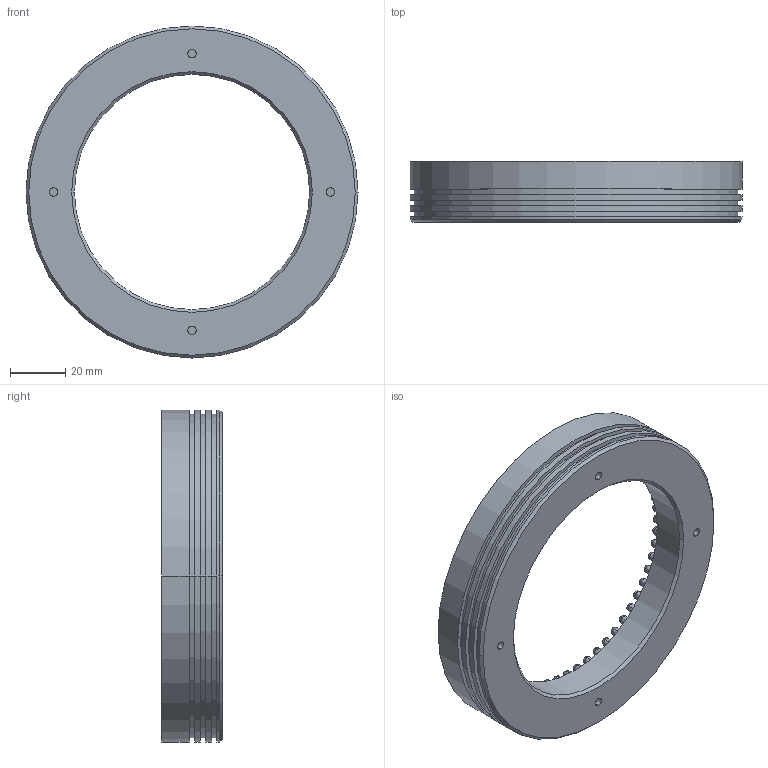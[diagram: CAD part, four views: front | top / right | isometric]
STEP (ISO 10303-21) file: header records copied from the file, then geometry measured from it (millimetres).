
FILE_DESCRIPTION((''),'2;1');
FILE_NAME('70-0W_ASM','2020-03-28T',('ASUS'),(''),'PRO/ENGINEER BY PARAMETRIC TECHNOLOGY CORPORATION, 2008380','PRO/ENGINEER BY PARAMETRIC TECHNOLOGY CORPORATION, 2008380','');
FILE_SCHEMA(('CONFIG_CONTROL_DESIGN'));
Length unit declared in the file: millimetre
Products named in the file (3): 70-0; 4_; 70-0W_ASM
Assembly tree (177 placements, depth 2):
  70-0W_ASM
    70-0
    4_  x176
Bounding box: 120 x 22 x 120 mm (x, y, z)
Volume: 68988.2 mm3; surface area: 50678.5 mm2
Topology: 177 solids, 178 shells, 1460 faces, 2920 edges, 1652 vertices
Faces by surface type: cylinder 736, plane 368, sphere 352, cone 4
Entity records: 3074 total; most frequent: DIRECTION 676, CARTESIAN_POINT 435, AXIS2_PLACEMENT_3D 318, ORIENTED_EDGE 236, PRODUCT_DEFINITION_SHAPE 180, ITEM_DEFINED_TRANSFORMATION 177, CONTEXT_DEPENDENT_SHAPE_REPRESENTATION 177, NEXT_ASSEMBLY_USAGE_OCCURRENCE 177
